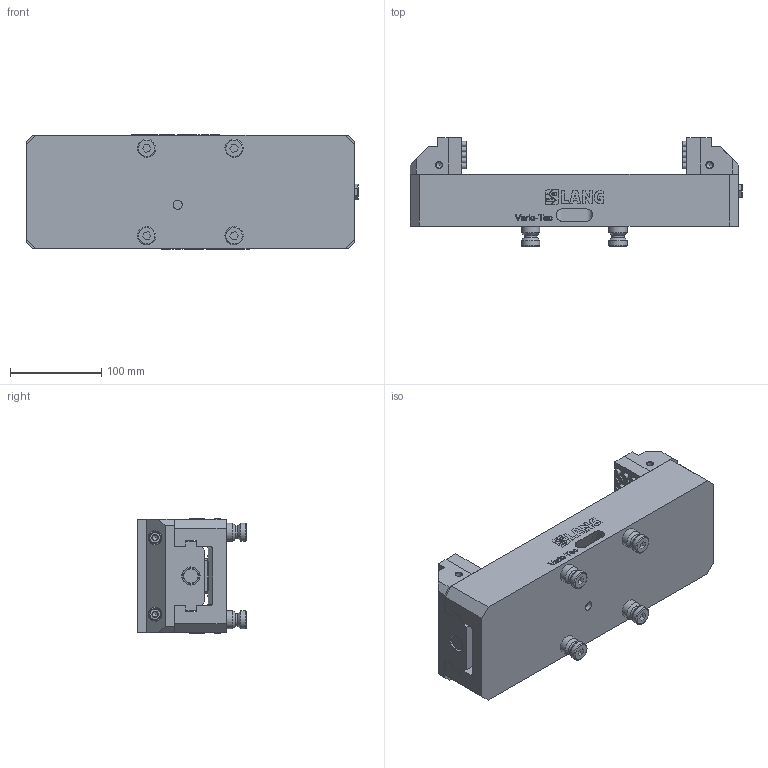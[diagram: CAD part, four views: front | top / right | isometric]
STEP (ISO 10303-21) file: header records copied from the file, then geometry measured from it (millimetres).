
FILE_DESCRIPTION (( 'STEP AP214' ), '1' );
FILE_NAME ('42252-125.STEP', '2020-03-16T08:19:13', ( '' ), ( '' ), 'SwSTEP 2.0', 'SolidWorks 2019', '' );
FILE_SCHEMA (( 'AUTOMOTIVE_DESIGN' ));
Length unit declared in the file: millimetre
Products named in the file (3): Vario-Tec_42252-125; 42252-125; 42018-125
Assembly tree (3 placements, depth 2):
  42252-125
    Vario-Tec_42252-125
    42018-125  x2
Bounding box: 364.41 x 119.01 x 125.24 mm (x, y, z)
Volume: 2312254.3 mm3; surface area: 344532.5 mm2
Topology: 50 solids, 50 shells, 1106 faces, 2554 edges, 1665 vertices
Faces by surface type: plane 709, cylinder 162, bspline 140, cone 71, torus 24
Full cylindrical faces by diameter (mm): 6 x92, 6.8 x8, 8 x4, 8.5 x4, 9 x4, 10 x1, 13 x4, 15 x4, 16 x8, 16.5 x1, 20 x12
Entity records: 39761 total; most frequent: CARTESIAN_POINT 10455, ORIENTED_EDGE 3896, DIRECTION 3377, EDGE_CURVE 1948, LINE 1387, VECTOR 1387, VERTEX_POINT 1355, EDGE_LOOP 1113
